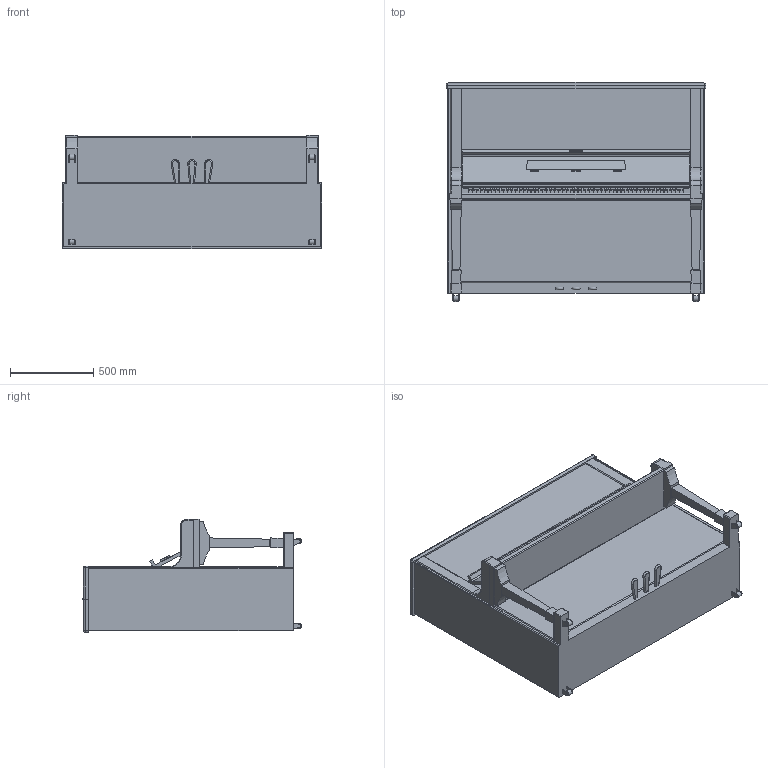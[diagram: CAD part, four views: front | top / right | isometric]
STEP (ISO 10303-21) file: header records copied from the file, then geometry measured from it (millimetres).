
FILE_DESCRIPTION(/* description */ (''),/* implementation_level */ '2;1');
FILE_NAME(/* name */ 'D:\100-HP用\楽器\アップライト\piano1-stp.stp',/* time_stamp */ '2022-05-16T19:17:30+09:00',/* author */ ('D'),/* organization */ (''),/* preprocessor_version */ 'ST-DEVELOPER v18',/* originating_system */ 'Autodesk Inventor 2020',/* authorisation */ '');
FILE_SCHEMA (('AUTOMOTIVE_DESIGN { 1 0 10303 214 3 1 1 }'));
Length unit declared in the file: millimetre
Products named in the file (1): Part1
Bounding box: 1560 x 1315.98 x 680 mm (x, y, z)
Volume: 786439831.1 mm3; surface area: 8874254.1 mm2
Topology: 10 solids, 10 shells, 1130 faces, 3028 edges, 1966 vertices
Faces by surface type: plane 982, cylinder 129, torus 11, sphere 8
Full cylindrical faces by diameter (mm): 30 x2, 35 x2
Entity records: 35119 total; most frequent: CARTESIAN_POINT 6156, ORIENTED_EDGE 6058, DIRECTION 5547, EDGE_CURVE 3029, LINE 2769, VECTOR 2769, VERTEX_POINT 1966, AXIS2_PLACEMENT_3D 1389
